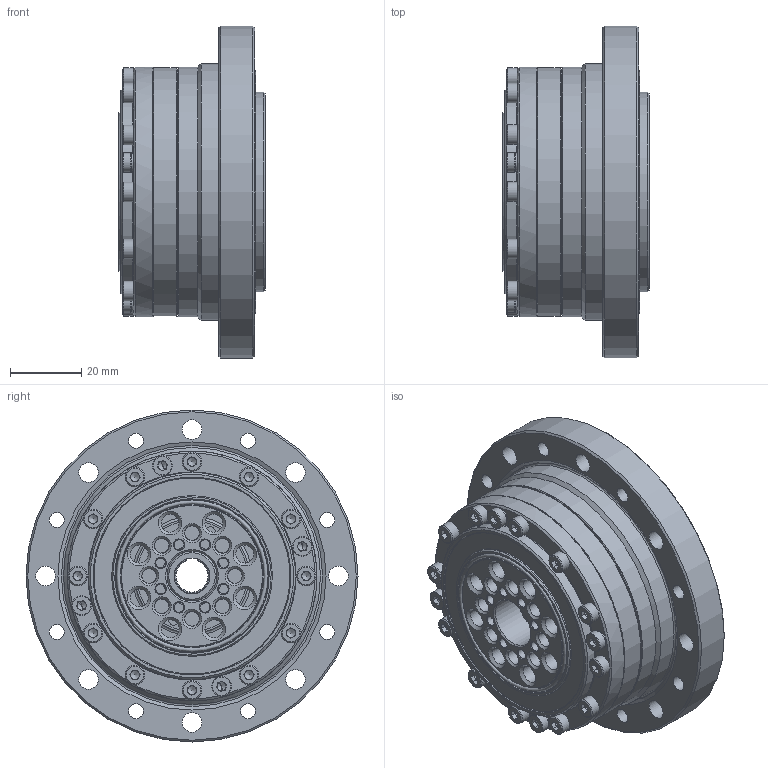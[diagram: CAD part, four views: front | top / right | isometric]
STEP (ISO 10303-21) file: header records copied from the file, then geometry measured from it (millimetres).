
FILE_DESCRIPTION(/* description */ (''),/* implementation_level */ '2;1');
FILE_NAME(/* name */ 'Getriebeset_CTG_Plus_BG51_FK.stp',/* time_stamp */ '2026-03-10T14:14:25+01:00',/* author */ (''),/* organization */ (''),/* preprocessor_version */ 'ST-DEVELOPER v19.4',/* originating_system */ 'SIEMENS PLM Software NX2212.9120',/* authorisation */ '');
FILE_SCHEMA (('AUTOMOTIVE_DESIGN { 1 0 10303 214 3 1 1 1 }'));
Length unit declared in the file: millimetre
Products named in the file (1): Getriebeset_CTG_Plus_BG51_FK
Bounding box: 41.3 x 93 x 93 mm (x, y, z)
Volume: 128883.9 mm3; surface area: 92621.7 mm2
Topology: 112 solids, 112 shells, 1421 faces, 3193 edges, 2003 vertices
Faces by surface type: plane 569, cylinder 333, cone 288, torus 193, sphere 35, bspline 3
Full cylindrical faces by diameter (mm): 2.5 x28, 2.6 x2, 2.8 x8, 3 x72, 3.6 x28, 4 x8, 4.2 x16, 5 x20, 5.5 x48, 8.5 x8, 10 x1, 13.5 x1, 14 x2, 16 x3, 31 x1, 32 x2, 33.88 x1, 34 x1, 35 x3, 38.5 x3, 39.8 x1, 43 x1, 43.5 x1, 45 x3, 46.3 x2, 49 x2, 49.5 x2, 49.9 x1, 50.5 x2, 51 x1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
Entity records: 38395 total; most frequent: CARTESIAN_POINT 9342, DIRECTION 6115, ORIENTED_EDGE 4436, AXIS2_PLACEMENT_3D 2702, EDGE_LOOP 2343, EDGE_CURVE 2218, VERTEX_POINT 1782, FACE_BOUND 1781
